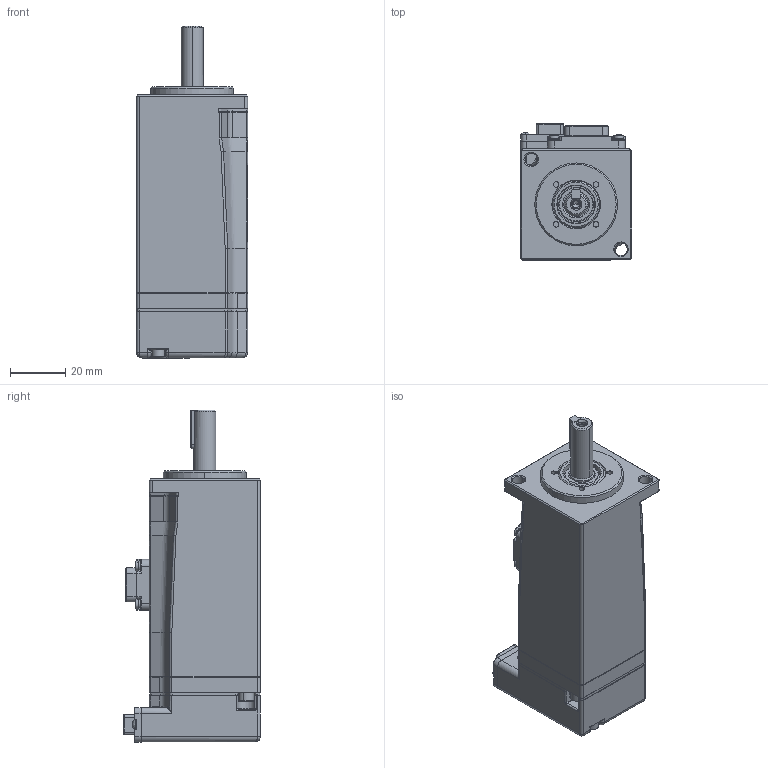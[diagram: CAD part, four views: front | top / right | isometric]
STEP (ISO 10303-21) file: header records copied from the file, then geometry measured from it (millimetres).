
FILE_DESCRIPTION (( 'STEP AP203' ), '1' );
FILE_NAME ('俋倛芞-100W-ACM2S-衄价陬.STEP', '2021-11-15T12:01:13', ( '' ), ( '' ), 'SwSTEP 2.0', 'SolidWorks 2020', '' );
FILE_SCHEMA (( 'CONFIG_CONTROL_DESIGN' ));
Products named in the file (1): 俋倛芞-100W-ACM2S-衄价陬
Bounding box: 40.3 x 49.5 x 120.3 mm (x, y, z)
Volume: 152985.1 mm3; surface area: 29799.5 mm2
Topology: 16 solids, 58 shells, 3033 faces, 7491 edges, 4610 vertices
Faces by surface type: plane 1498, cylinder 871, cone 481, torus 99, bspline 76, sphere 8
Entity records: 101774 total; most frequent: CARTESIAN_POINT 29381, DIRECTION 15282, ORIENTED_EDGE 14900, EDGE_CURVE 7450, AXIS2_PLACEMENT_3D 5223, LINE 4836, VECTOR 4836, VERTEX_POINT 4610
